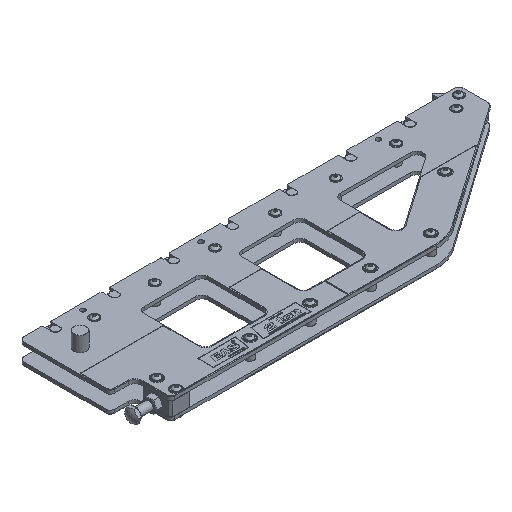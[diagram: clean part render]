
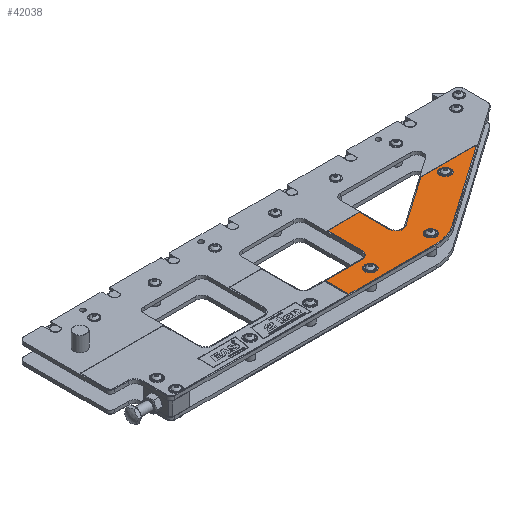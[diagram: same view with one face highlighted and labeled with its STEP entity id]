
A CAD part, isometric view. The second image highlights one B-rep face of the part: STEP entity #42038.
In plain terms, the highlighted planar face has unit normal (0, 0, 1).
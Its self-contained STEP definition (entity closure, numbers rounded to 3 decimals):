
#2655=FACE_BOUND('',#8319,.T.);
#2656=FACE_BOUND('',#8320,.T.);
#2657=FACE_BOUND('',#8321,.T.);
#3645=PLANE('',#44370);
#5691=FACE_OUTER_BOUND('',#8318,.T.);
#8318=EDGE_LOOP('',(#35798,#35799,#35800,#35801,#35802,#35803,#35804,#35805,
#35806,#35807,#35808,#35809,#35810,#35811,#35812,#35813));
#8319=EDGE_LOOP('',(#35814));
#8320=EDGE_LOOP('',(#35815));
#8321=EDGE_LOOP('',(#35816));
#11812=LINE('',#67476,#16134);
#11823=LINE('',#67518,#16145);
#11827=LINE('',#67528,#16149);
#11830=LINE('',#67536,#16152);
#11834=LINE('',#67548,#16156);
#11836=LINE('',#67554,#16158);
#11838=LINE('',#67558,#16160);
#11839=LINE('',#67570,#16161);
#11840=LINE('',#67571,#16162);
#16134=VECTOR('',#50489,125.659);
#16145=VECTOR('',#50526,144.269);
#16149=VECTOR('',#50536,72.);
#16152=VECTOR('',#50545,81.);
#16156=VECTOR('',#50559,234.735);
#16158=VECTOR('',#50567,67.185);
#16160=VECTOR('',#50571,205.137);
#16161=VECTOR('',#50586,87.749);
#16162=VECTOR('',#50587,56.);
#18265=CIRCLE('',#44334,2.);
#18275=CIRCLE('',#44347,2.);
#18276=CIRCLE('',#44350,2.);
#18277=CIRCLE('',#44353,2.);
#18278=CIRCLE('',#44356,17.);
#18279=CIRCLE('',#44358,98.);
#18280=CIRCLE('',#44361,17.);
#18281=CIRCLE('',#44365,13.);
#18282=CIRCLE('',#44367,13.);
#18283=CIRCLE('',#44369,13.);
#20814=VERTEX_POINT('',#67466);
#20815=VERTEX_POINT('',#67468);
#20817=VERTEX_POINT('',#67474);
#20834=VERTEX_POINT('',#67512);
#20835=VERTEX_POINT('',#67516);
#20836=VERTEX_POINT('',#67520);
#20837=VERTEX_POINT('',#67522);
#20838=VERTEX_POINT('',#67526);
#20839=VERTEX_POINT('',#67530);
#20840=VERTEX_POINT('',#67534);
#20841=VERTEX_POINT('',#67538);
#20842=VERTEX_POINT('',#67542);
#20843=VERTEX_POINT('',#67544);
#20844=VERTEX_POINT('',#67550);
#20845=VERTEX_POINT('',#67556);
#20846=VERTEX_POINT('',#67560);
#20847=VERTEX_POINT('',#67563);
#20848=VERTEX_POINT('',#67566);
#20849=VERTEX_POINT('',#67569);
#26041=EDGE_CURVE('',#20814,#20815,#18265,.T.);
#26045=EDGE_CURVE('',#20814,#20817,#11812,.T.);
#26064=EDGE_CURVE('',#20834,#20817,#18275,.T.);
#26066=EDGE_CURVE('',#20834,#20835,#11823,.T.);
#26068=EDGE_CURVE('',#20836,#20837,#18276,.T.);
#26071=EDGE_CURVE('',#20836,#20838,#11827,.T.);
#26073=EDGE_CURVE('',#20839,#20838,#18277,.T.);
#26075=EDGE_CURVE('',#20839,#20840,#11830,.T.);
#26077=EDGE_CURVE('',#20840,#20841,#18278,.T.);
#26079=EDGE_CURVE('',#20843,#20842,#18279,.T.);
#26081=EDGE_CURVE('',#20842,#20815,#11834,.T.);
#26083=EDGE_CURVE('',#20835,#20844,#18280,.T.);
#26084=EDGE_CURVE('',#20844,#20837,#11836,.T.);
#26086=EDGE_CURVE('',#20845,#20843,#11838,.T.);
#26087=EDGE_CURVE('',#20846,#20846,#18281,.T.);
#26088=EDGE_CURVE('',#20847,#20847,#18282,.T.);
#26089=EDGE_CURVE('',#20848,#20848,#18283,.T.);
#26090=EDGE_CURVE('',#20841,#20849,#11839,.T.);
#26091=EDGE_CURVE('',#20849,#20845,#11840,.T.);
#35798=ORIENTED_EDGE('',*,*,#26041,.F.);
#35799=ORIENTED_EDGE('',*,*,#26045,.T.);
#35800=ORIENTED_EDGE('',*,*,#26064,.F.);
#35801=ORIENTED_EDGE('',*,*,#26066,.T.);
#35802=ORIENTED_EDGE('',*,*,#26083,.T.);
#35803=ORIENTED_EDGE('',*,*,#26084,.T.);
#35804=ORIENTED_EDGE('',*,*,#26068,.F.);
#35805=ORIENTED_EDGE('',*,*,#26071,.T.);
#35806=ORIENTED_EDGE('',*,*,#26073,.F.);
#35807=ORIENTED_EDGE('',*,*,#26075,.T.);
#35808=ORIENTED_EDGE('',*,*,#26077,.T.);
#35809=ORIENTED_EDGE('',*,*,#26090,.T.);
#35810=ORIENTED_EDGE('',*,*,#26091,.T.);
#35811=ORIENTED_EDGE('',*,*,#26086,.T.);
#35812=ORIENTED_EDGE('',*,*,#26079,.T.);
#35813=ORIENTED_EDGE('',*,*,#26081,.T.);
#35814=ORIENTED_EDGE('',*,*,#26089,.T.);
#35815=ORIENTED_EDGE('',*,*,#26088,.T.);
#35816=ORIENTED_EDGE('',*,*,#26087,.T.);
#42038=ADVANCED_FACE('',(#5691,#2655,#2656,#2657),#3645,.T.);
#44334=AXIS2_PLACEMENT_3D('',#67469,#50482,#50483);
#44347=AXIS2_PLACEMENT_3D('',#67514,#50521,#50522);
#44350=AXIS2_PLACEMENT_3D('',#67523,#50530,#50531);
#44353=AXIS2_PLACEMENT_3D('',#67532,#50540,#50541);
#44356=AXIS2_PLACEMENT_3D('',#67540,#50549,#50550);
#44358=AXIS2_PLACEMENT_3D('',#67545,#50554,#50555);
#44361=AXIS2_PLACEMENT_3D('',#67552,#50563,#50564);
#44365=AXIS2_PLACEMENT_3D('',#67561,#50574,#50575);
#44367=AXIS2_PLACEMENT_3D('',#67564,#50578,#50579);
#44369=AXIS2_PLACEMENT_3D('',#67567,#50582,#50583);
#44370=AXIS2_PLACEMENT_3D('',#67568,#50584,#50585);
#50482=DIRECTION('center_axis',(0.,0.,-1.));
#50483=DIRECTION('ref_axis',(0.954,0.301,0.));
#50489=DIRECTION('',(-1.,0.,0.));
#50521=DIRECTION('center_axis',(0.,0.,-1.));
#50522=DIRECTION('ref_axis',(-0.301,0.954,0.));
#50526=DIRECTION('',(-0.819,-0.574,0.));
#50530=DIRECTION('center_axis',(0.,0.,-1.));
#50531=DIRECTION('ref_axis',(0.707,0.707,0.));
#50536=DIRECTION('',(-1.,0.,0.));
#50540=DIRECTION('center_axis',(0.,0.,-1.));
#50541=DIRECTION('ref_axis',(-0.707,0.707,0.));
#50545=DIRECTION('',(0.,-1.,0.));
#50549=DIRECTION('center_axis',(0.,0.,-1.));
#50550=DIRECTION('ref_axis',(0.,1.,0.));
#50554=DIRECTION('center_axis',(0.,0.,1.));
#50555=DIRECTION('ref_axis',(0.,-1.,0.));
#50559=DIRECTION('',(0.819,0.574,0.));
#50563=DIRECTION('center_axis',(0.,0.,-1.));
#50564=DIRECTION('ref_axis',(1.,0.,0.));
#50567=DIRECTION('',(0.,1.,0.));
#50571=DIRECTION('',(1.,0.,0.));
#50574=DIRECTION('center_axis',(0.,0.,-1.));
#50575=DIRECTION('ref_axis',(-1.,0.,0.));
#50578=DIRECTION('center_axis',(0.,0.,-1.));
#50579=DIRECTION('ref_axis',(-1.,0.,0.));
#50582=DIRECTION('center_axis',(0.,0.,-1.));
#50583=DIRECTION('ref_axis',(-1.,0.,0.));
#50584=DIRECTION('center_axis',(0.,0.,1.));
#50585=DIRECTION('ref_axis',(1.,0.,0.));
#50586=DIRECTION('',(-1.,0.,0.));
#50587=DIRECTION('',(0.,-1.,0.));
#67466=CARTESIAN_POINT('',(934.484,-142.,0.7));
#67468=CARTESIAN_POINT('',(935.631,-145.638,0.7));
#67469=CARTESIAN_POINT('Origin',(934.484,-144.,0.7));
#67474=CARTESIAN_POINT('',(808.825,-142.,0.7));
#67476=CARTESIAN_POINT('',(630.517,-142.,0.7));
#67512=CARTESIAN_POINT('',(807.678,-142.362,0.7));
#67514=CARTESIAN_POINT('Origin',(808.825,-144.,0.7));
#67516=CARTESIAN_POINT('',(689.5,-225.111,0.7));
#67518=CARTESIAN_POINT('',(611.753,-279.549,0.7));
#67520=CARTESIAN_POINT('',(660.749,-142.,0.7));
#67522=CARTESIAN_POINT('',(662.749,-144.,0.7));
#67523=CARTESIAN_POINT('Origin',(660.749,-144.,0.7));
#67526=CARTESIAN_POINT('',(588.749,-142.,0.7));
#67528=CARTESIAN_POINT('',(519.794,-142.,0.7));
#67530=CARTESIAN_POINT('',(586.749,-144.,0.7));
#67532=CARTESIAN_POINT('Origin',(588.749,-144.,0.7));
#67534=CARTESIAN_POINT('',(586.749,-225.,0.7));
#67536=CARTESIAN_POINT('',(586.749,-221.534,0.7));
#67538=CARTESIAN_POINT('',(569.749,-242.,0.7));
#67540=CARTESIAN_POINT('Origin',(569.749,-225.,0.7));
#67542=CARTESIAN_POINT('',(743.347,-280.277,0.7));
#67544=CARTESIAN_POINT('',(687.137,-298.,0.7));
#67545=CARTESIAN_POINT('Origin',(687.137,-200.,0.7));
#67548=CARTESIAN_POINT('',(759.235,-269.152,0.7));
#67550=CARTESIAN_POINT('',(662.749,-211.185,0.7));
#67552=CARTESIAN_POINT('Origin',(679.749,-211.185,0.7));
#67554=CARTESIAN_POINT('',(662.749,-180.034,0.7));
#67556=CARTESIAN_POINT('',(482.,-298.,0.7));
#67558=CARTESIAN_POINT('',(569.989,-298.,0.7));
#67560=CARTESIAN_POINT('',(716.7,-270.,0.7));
#67561=CARTESIAN_POINT('Origin',(703.7,-270.,0.7));
#67563=CARTESIAN_POINT('',(573.8,-270.,0.7));
#67564=CARTESIAN_POINT('Origin',(560.8,-270.,0.7));
#67566=CARTESIAN_POINT('',(859.6,-161.543,0.7));
#67567=CARTESIAN_POINT('Origin',(846.6,-161.543,0.7));
#67568=CARTESIAN_POINT('Origin',(452.84,-218.069,0.7));
#67569=CARTESIAN_POINT('',(482.,-242.,0.7));
#67570=CARTESIAN_POINT('',(450.107,-242.,0.7));
#67571=CARTESIAN_POINT('',(482.,-229.034,0.7));
